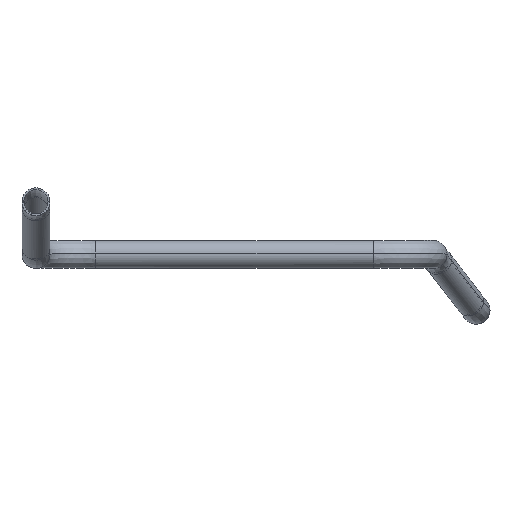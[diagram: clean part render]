
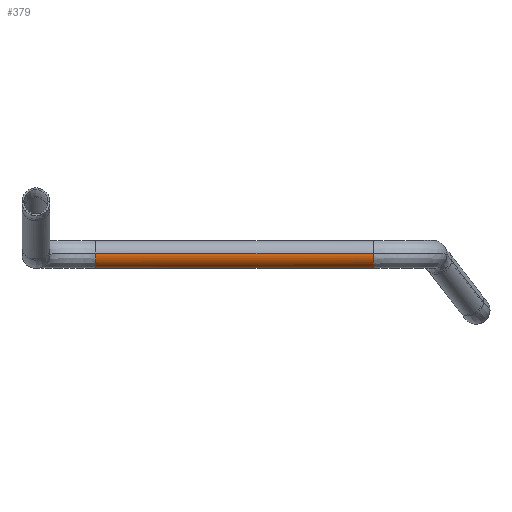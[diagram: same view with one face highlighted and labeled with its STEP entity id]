
A CAD part, front view. The second image highlights one B-rep face of the part: STEP entity #379.
In plain terms, the highlighted cylindrical face has radius 11 mm (diameter 22 mm), a partial arc.
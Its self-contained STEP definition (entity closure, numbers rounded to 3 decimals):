
#352=AXIS2_PLACEMENT_3D('Cylinder Axis2P3D',#349,#350,#351) ;
#370=AXIS2_PLACEMENT_3D('Circle Axis2P3D',#368,#369,$) ;
#319=CARTESIAN_POINT('Vertex',(394.,-515.958,281.955)) ;
#332=CARTESIAN_POINT('Vertex',(394.,-494.042,280.045)) ;
#336=CARTESIAN_POINT('Control Point',(394.,-515.958,281.955)) ;
#337=CARTESIAN_POINT('Control Point',(394.,-516.914,270.997)) ;
#338=CARTESIAN_POINT('Control Point',(394.,-506.433,264.562)) ;
#339=CARTESIAN_POINT('Control Point',(394.,-494.997,269.086)) ;
#340=CARTESIAN_POINT('Control Point',(394.,-494.042,280.045)) ;
#349=CARTESIAN_POINT('Axis2P3D Location',(503.5,-505.,281.)) ;
#354=CARTESIAN_POINT('Line Origine',(503.5,-515.958,281.955)) ;
#358=CARTESIAN_POINT('Vertex',(613.,-515.958,281.955)) ;
#361=CARTESIAN_POINT('Line Origine',(503.5,-494.042,280.045)) ;
#365=CARTESIAN_POINT('Vertex',(613.,-494.042,280.045)) ;
#368=CARTESIAN_POINT('Axis2P3D Location',(613.,-505.,281.)) ;
#350=DIRECTION('Axis2P3D Direction',(1.,0.,0.)) ;
#351=DIRECTION('Axis2P3D XDirection',(0.,-0.996,0.087)) ;
#355=DIRECTION('Vector Direction',(1.,0.,0.)) ;
#362=DIRECTION('Vector Direction',(1.,0.,0.)) ;
#369=DIRECTION('Axis2P3D Direction',(1.,0.,0.)) ;
#356=VECTOR('Line Direction',#355,1.) ;
#363=VECTOR('Line Direction',#362,1.) ;
#374=ORIENTED_EDGE('',*,*,#360,.F.) ;
#375=ORIENTED_EDGE('',*,*,#341,.T.) ;
#376=ORIENTED_EDGE('',*,*,#367,.T.) ;
#377=ORIENTED_EDGE('',*,*,#372,.F.) ;
#379=ADVANCED_FACE('( + ) PartBody',(#378),#353,.T.) ;
#371=CIRCLE('generated circle',#370,11.) ;
#353=CYLINDRICAL_SURFACE('generated cylinder',#352,11.) ;
#341=EDGE_CURVE('',#320,#333,#335,.T.) ;
#360=EDGE_CURVE('',#320,#359,#357,.T.) ;
#367=EDGE_CURVE('',#333,#366,#364,.T.) ;
#372=EDGE_CURVE('',#359,#366,#371,.T.) ;
#373=EDGE_LOOP('',(#374,#375,#376,#377)) ;
#378=FACE_OUTER_BOUND('',#373,.T.) ;
#357=LINE('Line',#354,#356) ;
#364=LINE('Line',#361,#363) ;
#320=VERTEX_POINT('',#319) ;
#333=VERTEX_POINT('',#332) ;
#359=VERTEX_POINT('',#358) ;
#366=VERTEX_POINT('',#365) ;
#335=(BOUNDED_CURVE()B_SPLINE_CURVE(4,(#336,#337,#338,#339,#340),.UNSPECIFIED.,.F.,.U.)B_SPLINE_CURVE_WITH_KNOTS((5,5),(0.,34.558),.UNSPECIFIED.)CURVE()GEOMETRIC_REPRESENTATION_ITEM()RATIONAL_B_SPLINE_CURVE((1.,0.707,0.667,0.707,1.))REPRESENTATION_ITEM('')) ;
